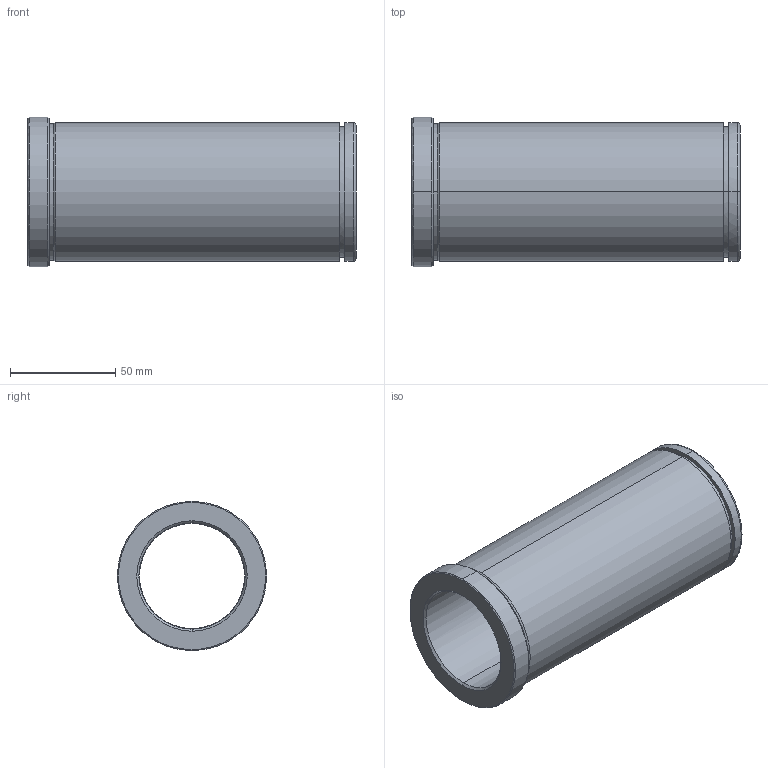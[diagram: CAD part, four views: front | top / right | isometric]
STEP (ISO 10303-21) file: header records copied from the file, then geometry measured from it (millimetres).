
FILE_DESCRIPTION(('CATIA V5 STEP Exchange'),'2;1');
FILE_NAME('C:\Users\Utente\Desktop\IO LAVORO\3D X SITO CF\X SITO\PLASTICA\553\553-50X156.stp','2021-06-08T18:22:04+00:00',('none'),('none'),'CATIA Version 5 Release 20 GA (IN-10)','CATIA V5 STEP AP203','none');
FILE_SCHEMA(('CONFIG_CONTROL_DESIGN'));
Length unit declared in the file: millimetre
Products named in the file (1): 553-50X156
Bounding box: 156 x 71 x 71 mm (x, y, z)
Volume: 229471.6 mm3; surface area: 61459.2 mm2
Topology: 1 solids, 1 shells, 32 faces, 102 edges, 76 vertices
Faces by surface type: cylinder 14, cone 8, plane 6, torus 4
Entity records: 1340 total; most frequent: CARTESIAN_POINT 395, ORIENTED_EDGE 204, DIRECTION 152, EDGE_CURVE 102, AXIS2_PLACEMENT_3D 99, VERTEX_POINT 76, CIRCLE 66, EDGE_LOOP 38
